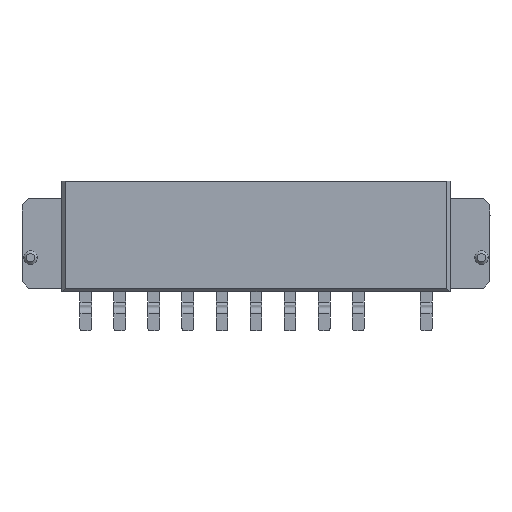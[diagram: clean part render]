
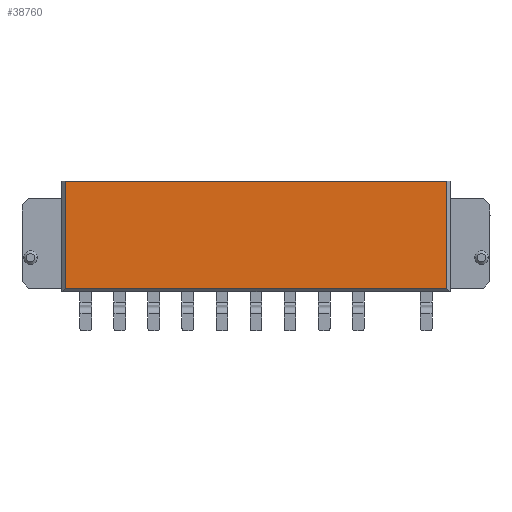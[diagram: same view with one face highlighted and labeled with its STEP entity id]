
A CAD part, top view. The second image highlights one B-rep face of the part: STEP entity #38760.
In plain terms, the highlighted planar face has unit normal (0, 0, 1) as drawn and (0, 0, -1) by its records, which use the part's own axes.
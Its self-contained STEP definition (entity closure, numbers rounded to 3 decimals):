
#5900=CARTESIAN_POINT('',(19.751,2.959,-3.4));
#5910=VERTEX_POINT('',#5900);
#6080=CARTESIAN_POINT('',(-2.649,2.959,-3.4));
#6090=VERTEX_POINT('',#6080);
#6120=CARTESIAN_POINT('',(10.551,2.959,-3.4));
#6130=DIRECTION('',(-1.,0.,0.));
#6140=VECTOR('',#6130,1.);
#6150=LINE('',#6120,#6140);
#6160=EDGE_CURVE('',#5910,#6090,#6150,.T.);
#18090=CARTESIAN_POINT('',(-2.649,0.,-3.4));
#18100=DIRECTION('',(0.,1.,0.));
#18110=VECTOR('',#18100,1.);
#18120=LINE('',#18090,#18110);
#18130=CARTESIAN_POINT('',(-2.649,-3.341,-3.4));
#18140=VERTEX_POINT('',#18130);
#18150=EDGE_CURVE('',#18140,#6090,#18120,.T.);
#25410=CARTESIAN_POINT('',(19.751,-3.341,-3.4));
#25420=VERTEX_POINT('',#25410);
#25450=CARTESIAN_POINT('',(2.,-3.341,-3.4));
#25460=DIRECTION('',(1.,0.,0.));
#25470=VECTOR('',#25460,1.);
#25480=LINE('',#25450,#25470);
#25490=EDGE_CURVE('',#18140,#25420,#25480,.T.);
#35830=CARTESIAN_POINT('',(19.751,0.,-3.4));
#35840=DIRECTION('',(0.,-1.,0.));
#35850=VECTOR('',#35840,1.);
#35860=LINE('',#35830,#35850);
#35870=EDGE_CURVE('',#5910,#25420,#35860,.T.);
#38650=CARTESIAN_POINT('',(4.,0.,-3.4));
#38660=DIRECTION('',(0.,0.,1.));
#38670=DIRECTION('',(1.,0.,0.));
#38680=AXIS2_PLACEMENT_3D('',#38650,#38660,#38670);
#38690=PLANE('',#38680);
#38700=ORIENTED_EDGE('',*,*,#35870,.T.);
#38710=ORIENTED_EDGE('',*,*,#6160,.F.);
#38720=ORIENTED_EDGE('',*,*,#18150,.T.);
#38730=ORIENTED_EDGE('',*,*,#25490,.F.);
#38740=EDGE_LOOP('',(#38730,#38720,#38710,#38700));
#38750=FACE_OUTER_BOUND('',#38740,.T.);
#38760=ADVANCED_FACE('',(#38750),#38690,.F.);
